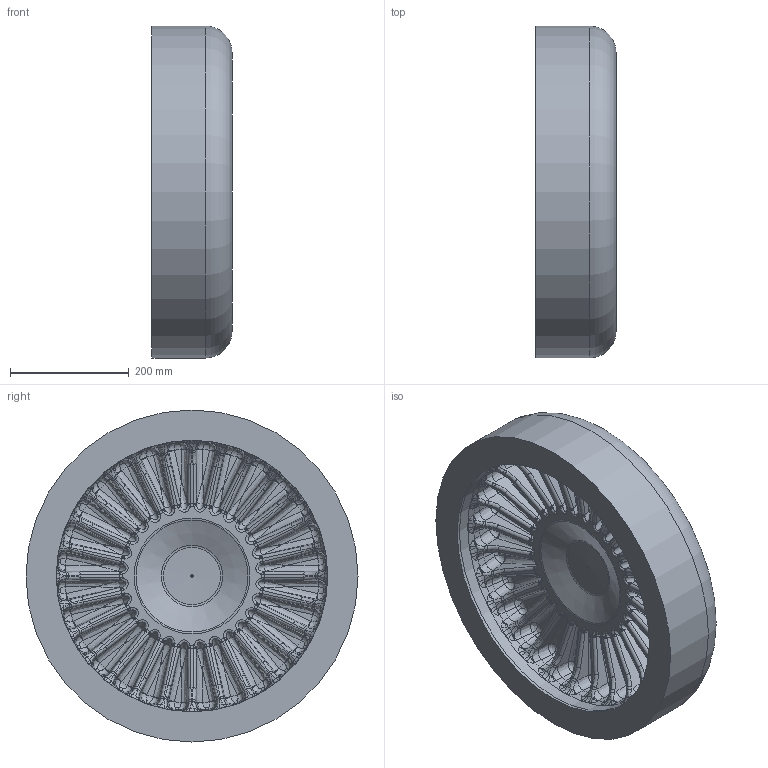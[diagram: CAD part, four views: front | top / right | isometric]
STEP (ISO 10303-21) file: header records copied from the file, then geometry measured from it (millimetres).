
FILE_DESCRIPTION(/* description */ ('Unknown'),/* implementation_level */ '2;1');
FILE_NAME(/* name */ 'CAP560C',/* time_stamp */ '2022-05-16T10:03:53+02:00',/* author */ ('Unknown'),/* organization */ ('Unknown'),/* preprocessor_version */ 'ST-DEVELOPER v18.1',/* originating_system */ 'Solid Edge',/* authorisation */ 'Unknown');
FILE_SCHEMA (('AUTOMOTIVE_DESIGN {1 0 10303 214 3 1 1}'));
Products named in the file (1): CAP560C
Bounding box: 135 x 560 x 560 mm (x, y, z)
Volume: 20875686.5 mm3; surface area: 911904.2 mm2
Topology: 1 solids, 1 shells, 1273 faces, 2963 edges, 1609 vertices
Faces by surface type: bspline 840, cylinder 198, plane 143, torus 60, cone 31, sphere 1
Full cylindrical faces by diameter (mm): 458.4 x1, 560 x1
Entity records: 53278 total; most frequent: CARTESIAN_POINT 30612, ORIENTED_EDGE 5734, DIRECTION 3466, EDGE_CURVE 2867, VERTEX_POINT 1607, AXIS2_PLACEMENT_3D 1537, EDGE_LOOP 1284, FACE_BOUND 1284
